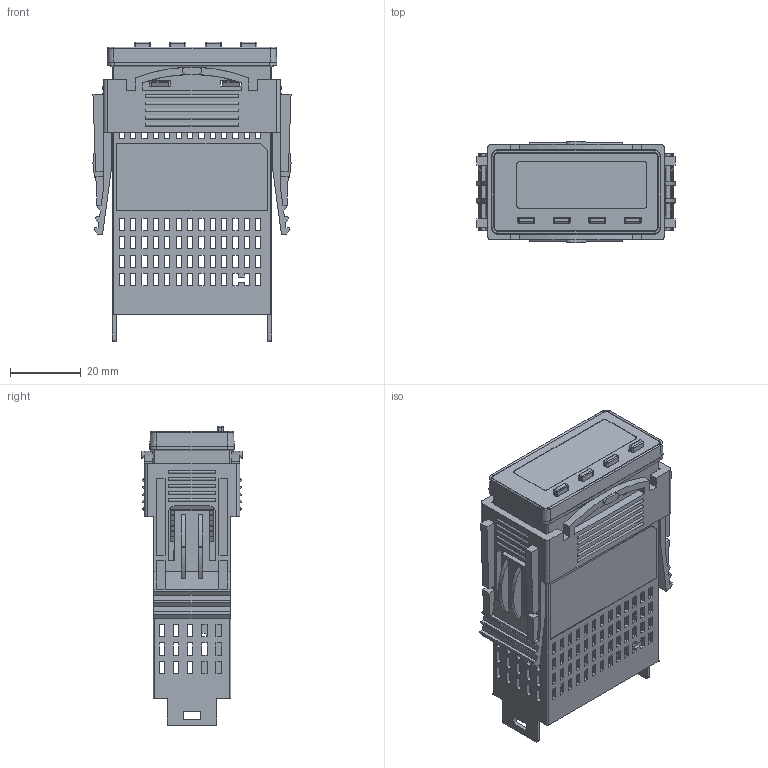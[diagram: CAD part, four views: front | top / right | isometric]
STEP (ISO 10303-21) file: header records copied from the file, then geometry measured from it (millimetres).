
FILE_DESCRIPTION((''),'2;1');
FILE_NAME('ME_C22_SET_ASM','2018-05-24T',('Harry'),(''),'CREO PARAMETRIC BY PTC INC, 2014350','CREO PARAMETRIC BY PTC INC, 2014350','');
FILE_SCHEMA(('CONFIG_CONTROL_DESIGN','GEOMETRIC_VALIDATION_PROPERTIES_MIM'));
Products named in the file (19): ME_C22_GLASS; ME_C22_BACKLIGHT; ME_C22_LCD_GLASS; ME_C22_LCD_SET_ASM; SWCH_3X2; PCB_C22_CNTL_SET_ASM; PCB_C22_SET_ASM; ME_C22_COVER_FRONT; ME_C22_HOUSING; ME_C22_WP_IN; ME_C22_WP_OUT; ME_C22_DECO_FRONT; ME_C22_RBKY; ME_C21_CLAMPER; ME_C22_KEY_P; ME_C22_KEY_R; SKL_C22_KEY; ME_C22_KEY_SET_ASM; ME_C22_SET_ASM
Assembly tree (21 placements, depth 5):
  ME_C22_SET_ASM
    PCB_C22_SET_ASM
      PCB_C22_CNTL_SET_ASM
        ME_C22_GLASS
        ME_C22_BACKLIGHT
        ME_C22_LCD_SET_ASM
          ME_C22_LCD_GLASS
        SWCH_3X2  x4
    ME_C22_COVER_FRONT
    ME_C22_HOUSING
    ME_C22_WP_IN
    ME_C22_WP_OUT
    ME_C22_DECO_FRONT
    ME_C22_RBKY
    ME_C21_CLAMPER
    ME_C22_KEY_SET_ASM
      ME_C22_KEY_P
      ME_C22_KEY_R
      SKL_C22_KEY
Bounding box: 55.8 x 28.5 x 84.5 mm (x, y, z)
Volume: 21667.2 mm3; surface area: 41616.3 mm2
Topology: 17 solids, 17 shells, 2603 faces, 7305 edges, 4816 vertices
Faces by surface type: plane 2143, cylinder 390, cone 30, torus 20, sphere 16, bspline 4
Entity records: 90619 total; most frequent: CARTESIAN_POINT 15262, ORIENTED_EDGE 14358, DIRECTION 12937, EDGE_CURVE 7179, VECTOR 6281, LINE 6281, VERTEX_POINT 4732, AXIS2_PLACEMENT_3D 3328
